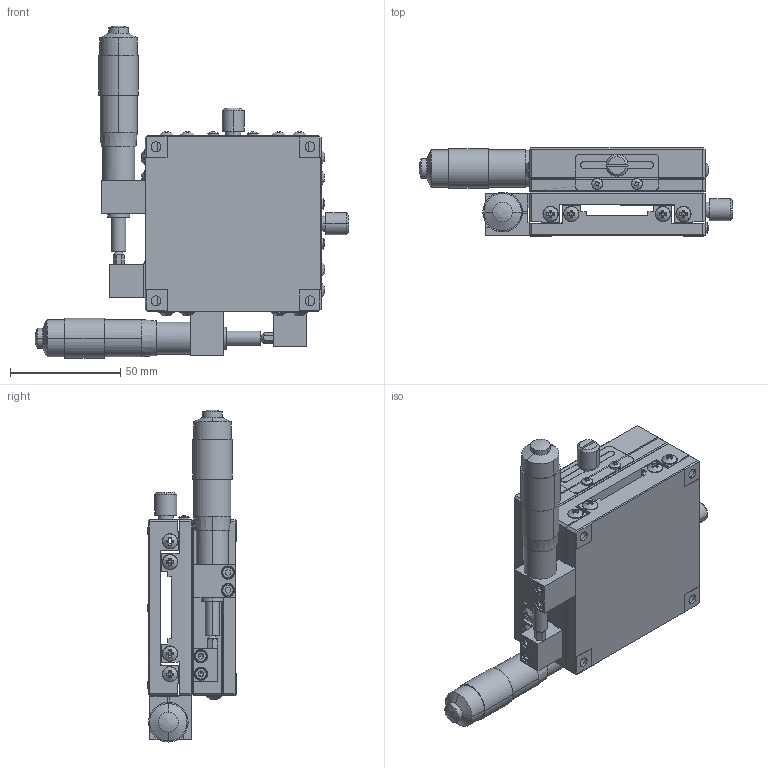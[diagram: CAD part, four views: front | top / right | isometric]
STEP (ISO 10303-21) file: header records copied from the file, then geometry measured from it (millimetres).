
FILE_DESCRIPTION (( 'STEP AP214' ), '1' );
FILE_NAME ('PT-XY80L.STEP', '2022-09-04T06:54:00', ( '' ), ( '' ), 'SwSTEP 2.0', 'SolidWorks 2017', '' );
FILE_SCHEMA (( 'AUTOMOTIVE_DESIGN' ));
Length unit declared in the file: millimetre
Products named in the file (1): PT-XY80L
Bounding box: 142.5 x 40.1 x 150.9 mm (x, y, z)
Surface area: 76452.7 mm2 (no closed solid volume)
Topology: 0 solids, 29 shells, 894 faces, 2541 edges, 1619 vertices
Faces by surface type: plane 548, cylinder 162, cone 108, bspline 76
Entity records: 36393 total; most frequent: CARTESIAN_POINT 15210, ORIENTED_EDGE 4456, DIRECTION 3857, EDGE_CURVE 2465, VERTEX_POINT 1601, AXIS2_PLACEMENT_3D 1305, LINE 1247, VECTOR 1247
